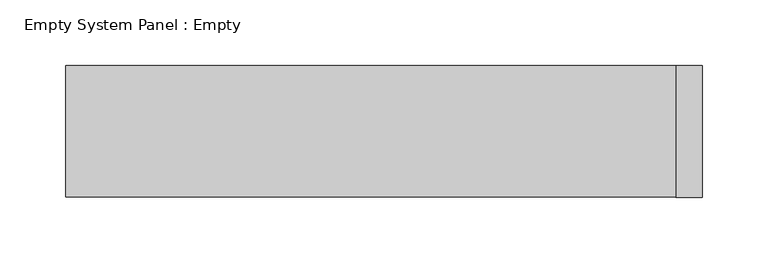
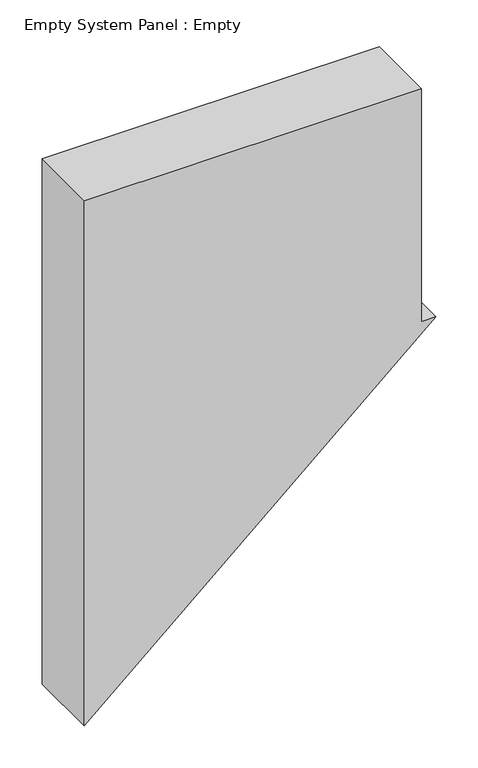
"""IFC4 building model written with IfcOpenShell, lengths in millimetres: plate geometry, Empty System Panel : Empty."""

from ifc_helpers import new_model, si_unit, frame, origin, place, context, project, spatial, polyline, outline, extrude, source, transform, mapped, element, save


def empty_system_panel_empty_a3908815(model_context):
    return source(origin(), model_context, "Body", "SweptSolid", [
        extrude(outline(polyline([(0.0, -241.7391304), (424.4092097, 241.7391304), (424.4092097, 221.7391304), (762.3833183, 221.7391304), (762.3833183, -241.7391304), (0.0, -241.7391304)])), frame((0.0, -50.0, 0.0), z_axis=(0.0, 1.0, 0.0), x_axis=(0.0, 0.0, 1.0)), (0.0, 0.0, 1.0), 100.0),
    ])


if __name__ == "__main__":
    model = new_model("IFC4")
    model_context = context("Model", 3, world=origin())
    ifc_project = project(units=[si_unit("LENGTHUNIT", "METRE", prefix="MILLI")], contexts=[model_context])
    site = spatial("IfcSite", under=ifc_project)
    building = spatial("IfcBuilding", under=site)
    placement = place(None, origin())
    empty_system_panel_empty_shape = empty_system_panel_empty_a3908815(model_context)
    element("IfcPlate", 1, ObjectType="Empty System Panel : Empty", at=placement, inside=building, context=model_context, shape_type="MappedRepresentation", body=[
        mapped(empty_system_panel_empty_shape, transform((0.0, 0.0, 0.0), x_axis=(1.0, 0.0, 0.0), y_axis=(0.0, 1.0, 0.0), z_axis=(0.0, 0.0, 1.0))),
    ])
    save(model, "model.ifc")
